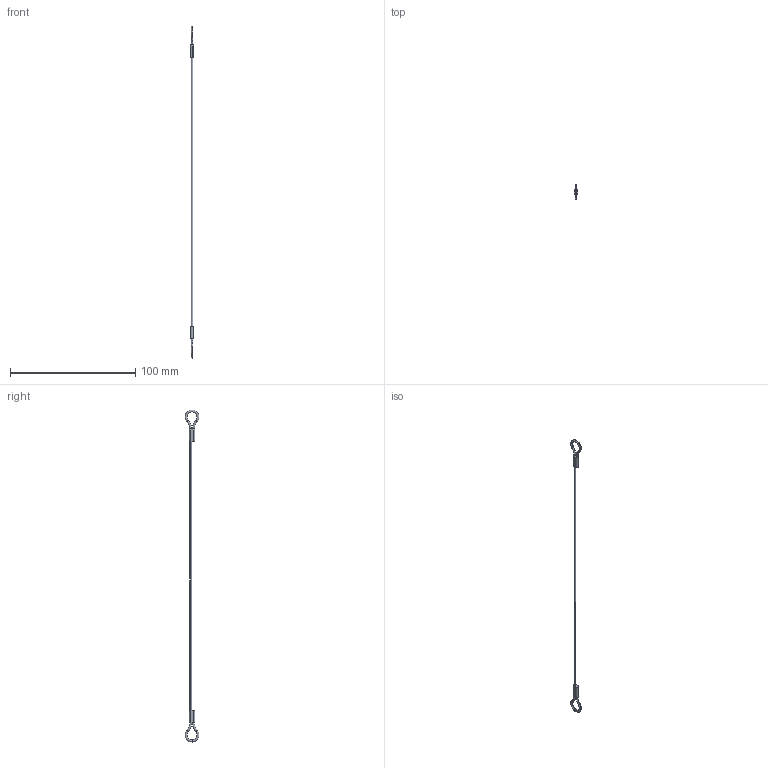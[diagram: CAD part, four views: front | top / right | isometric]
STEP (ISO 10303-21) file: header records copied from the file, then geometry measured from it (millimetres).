
FILE_DESCRIPTION (( 'STEP AP203' ), '1' );
FILE_NAME ('LA1065.I06-254N1.step', '2026-03-23T15:45:17', ( '' ), ( '' ), 'SwSTEP 2.0', 'SolidWorks 2019', '' );
FILE_SCHEMA (( 'CONFIG_CONTROL_DESIGN' ));
Length unit declared in the file: millimetre
Products named in the file (1): LA1065.I06-254N1
Bounding box: 2.4 x 11.18 x 265.17 mm (x, y, z)
Volume: 769.1 mm3; surface area: 1702.9 mm2
Topology: 1 solids, 1 shells, 30 faces, 68 edges, 42 vertices
Faces by surface type: torus 14, cylinder 8, plane 8
Entity records: 945 total; most frequent: DIRECTION 178, CARTESIAN_POINT 141, ORIENTED_EDGE 136, AXIS2_PLACEMENT_3D 79, EDGE_CURVE 68, CIRCLE 48, VERTEX_POINT 42, EDGE_LOOP 36
